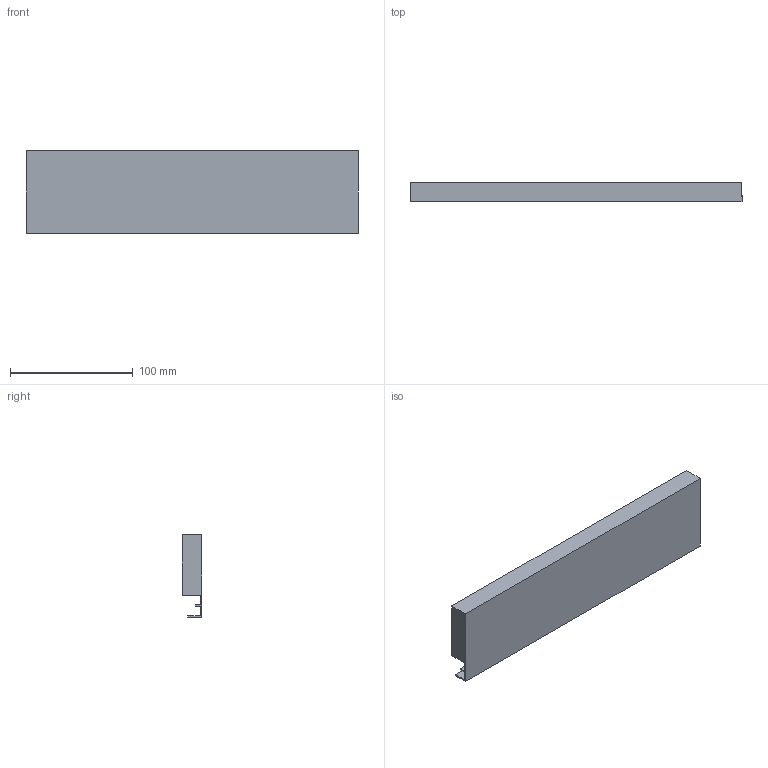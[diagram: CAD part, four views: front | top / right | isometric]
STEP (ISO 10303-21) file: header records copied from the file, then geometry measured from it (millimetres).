
FILE_DESCRIPTION (( 'STEP AP214' ), '1' );
FILE_NAME ('Innenschub-Blendenprofil_KAB400_S19.step', '2010-09-23T12:27:06', ( 'grass' ), ( '' ), 'SwSTEP 2.0', 'SolidWorks 2010', '' );
FILE_SCHEMA (( 'AUTOMOTIVE_DESIGN' ));
Length unit declared in the file: millimetre
Products named in the file (1): Innenschub-Blendenprofil_KAB400_S19
Bounding box: 271 x 15.9 x 67.6 mm (x, y, z)
Volume: 224673.8 mm3; surface area: 54863.2 mm2
Topology: 1 solids, 1 shells, 17 faces, 42 edges, 28 vertices
Faces by surface type: plane 15, cylinder 2
Entity records: 534 total; most frequent: CARTESIAN_POINT 88, ORIENTED_EDGE 84, DIRECTION 82, EDGE_CURVE 42, VECTOR 38, LINE 38, VERTEX_POINT 28, AXIS2_PLACEMENT_3D 22
